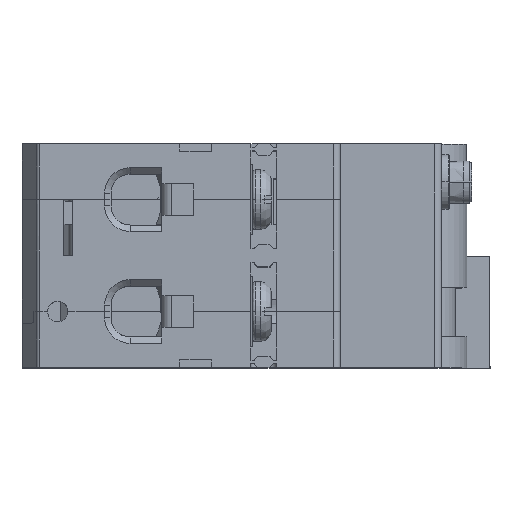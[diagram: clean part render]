
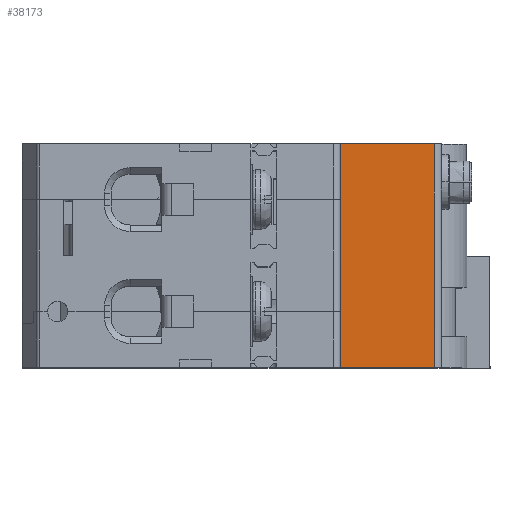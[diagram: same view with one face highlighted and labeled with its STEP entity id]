
A CAD part, top view. The second image highlights one B-rep face of the part: STEP entity #38173.
In plain terms, the highlighted planar face has unit normal (0, 0, 1).
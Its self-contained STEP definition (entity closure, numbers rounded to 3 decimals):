
#2223 = LINE ( 'NONE', #81834, #18887 ) ;
#4127 = LINE ( 'NONE', #73715, #152501 ) ;
#10267 = CARTESIAN_POINT ( 'NONE',  ( 57.4, 0., 64. ) ) ;
#12667 = LINE ( 'NONE', #53320, #14916 ) ;
#14916 = VECTOR ( 'NONE', #94013, 1000. ) ;
#18887 = VECTOR ( 'NONE', #164984, 1000. ) ;
#19006 = VECTOR ( 'NONE', #148581, 1000. ) ;
#24190 = DIRECTION ( 'NONE',  ( 1., 0., 0. ) ) ;
#27970 = EDGE_CURVE ( 'NONE', #109112, #94535, #176594, .T. ) ;
#32086 = DIRECTION ( 'NONE',  ( 0., 1., 0. ) ) ;
#38173 = ADVANCED_FACE ( 'NONE', ( #54850 ), #178722, .T. ) ;
#40384 = DIRECTION ( 'NONE',  ( 1., 0., 0. ) ) ;
#44588 = CARTESIAN_POINT ( 'NONE',  ( 64.8, 35.2, 64. ) ) ;
#49488 = CARTESIAN_POINT ( 'NONE',  ( 64.8, 17.6, 64. ) ) ;
#50629 = EDGE_CURVE ( 'NONE', #132852, #64873, #4127, .T. ) ;
#53320 = CARTESIAN_POINT ( 'NONE',  ( 50., 17.6, 64. ) ) ;
#54850 = FACE_OUTER_BOUND ( 'NONE', #65661, .T. ) ;
#55107 = AXIS2_PLACEMENT_3D ( 'NONE', #152477, #55728, #40384 ) ;
#55728 = DIRECTION ( 'NONE',  ( 0., 0., 1. ) ) ;
#56326 = EDGE_CURVE ( 'NONE', #132852, #92061, #12667, .T. ) ;
#64873 = VERTEX_POINT ( 'NONE', #121360 ) ;
#65661 = EDGE_LOOP ( 'NONE', ( #93944, #136431, #100560, #107642, #89727, #171157 ) ) ;
#73715 = CARTESIAN_POINT ( 'NONE',  ( 50., 17.6, 64. ) ) ;
#77945 = EDGE_CURVE ( 'NONE', #105752, #109112, #148020, .T. ) ;
#81834 = CARTESIAN_POINT ( 'NONE',  ( 50., 17.6, 64. ) ) ;
#84435 = CARTESIAN_POINT ( 'NONE',  ( 50., 8.8, 64. ) ) ;
#89727 = ORIENTED_EDGE ( 'NONE', *, *, #56326, .T. ) ;
#92061 = VERTEX_POINT ( 'NONE', #84435 ) ;
#93801 = LINE ( 'NONE', #166736, #113746 ) ;
#93944 = ORIENTED_EDGE ( 'NONE', *, *, #27970, .F. ) ;
#94013 = DIRECTION ( 'NONE',  ( 0., -1., 0. ) ) ;
#94535 = VERTEX_POINT ( 'NONE', #145171 ) ;
#100560 = ORIENTED_EDGE ( 'NONE', *, *, #108770, .F. ) ;
#105752 = VERTEX_POINT ( 'NONE', #44588 ) ;
#105843 = VECTOR ( 'NONE', #146249, 1000. ) ;
#107642 = ORIENTED_EDGE ( 'NONE', *, *, #50629, .F. ) ;
#108770 = EDGE_CURVE ( 'NONE', #64873, #105752, #93801, .T. ) ;
#109112 = VERTEX_POINT ( 'NONE', #159446 ) ;
#113270 = EDGE_CURVE ( 'NONE', #94535, #92061, #2223, .T. ) ;
#113746 = VECTOR ( 'NONE', #24190, 1000. ) ;
#121360 = CARTESIAN_POINT ( 'NONE',  ( 50., 35.2, 64. ) ) ;
#132852 = VERTEX_POINT ( 'NONE', #146204 ) ;
#136431 = ORIENTED_EDGE ( 'NONE', *, *, #77945, .F. ) ;
#145171 = CARTESIAN_POINT ( 'NONE',  ( 50., 0., 64. ) ) ;
#146204 = CARTESIAN_POINT ( 'NONE',  ( 50., 26.4, 64. ) ) ;
#146249 = DIRECTION ( 'NONE',  ( 0., -1., 0. ) ) ;
#148020 = LINE ( 'NONE', #49488, #105843 ) ;
#148581 = DIRECTION ( 'NONE',  ( -1., 0., 0. ) ) ;
#152477 = CARTESIAN_POINT ( 'NONE',  ( 65.096, 35.904, 64. ) ) ;
#152501 = VECTOR ( 'NONE', #32086, 1000. ) ;
#159446 = CARTESIAN_POINT ( 'NONE',  ( 64.8, 0., 64. ) ) ;
#164984 = DIRECTION ( 'NONE',  ( 0., 1., 0. ) ) ;
#166736 = CARTESIAN_POINT ( 'NONE',  ( 57.4, 35.2, 64. ) ) ;
#171157 = ORIENTED_EDGE ( 'NONE', *, *, #113270, .F. ) ;
#176594 = LINE ( 'NONE', #10267, #19006 ) ;
#178722 = PLANE ( 'NONE',  #55107 ) ;
